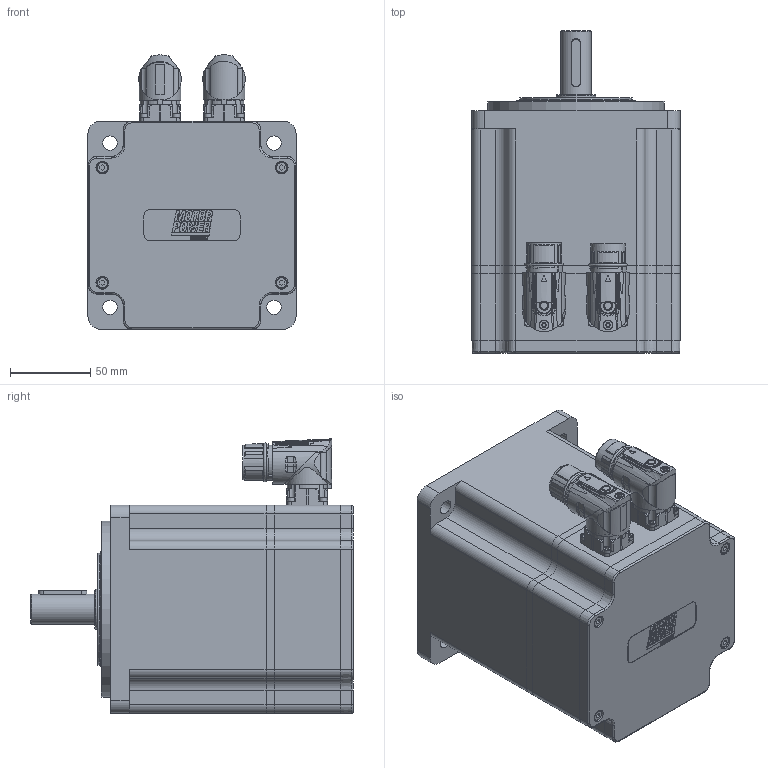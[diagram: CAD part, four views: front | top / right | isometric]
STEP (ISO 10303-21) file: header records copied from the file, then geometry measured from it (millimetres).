
FILE_DESCRIPTION(/* description */ ('Unknown'),/* implementation_level */ '2;1');
FILE_NAME(/* name */ 'TC4-130.5F.XX.X. 3.M1.0.1.C21 Q0C603',/* time_stamp */ '2026-03-05T15:24:29+01:00',/* author */ ('Unknown'),/* organization */ ('Unknown'),/* preprocessor_version */ 'ST-DEVELOPER v19.4',/* originating_system */ 'Solid Edge',/* authorisation */ 'Unknown');
FILE_SCHEMA (('AUTOMOTIVE_DESIGN {1 0 10303 214 3 1 1}'));
Products named in the file (14): Q0C603 5F M1 VUOTO; 005119002009; 007117000456; 005911000432; 007117000454; 003251022006; 003155002224; Albero TC4 130 5F M1; 005113000500; Corpo TC4-130 5F; 005911000180; 005911000185; 003103040232; 003107003290
Assembly tree (28 placements, depth 2):
  Q0C603 5F M1 VUOTO
    005119002009
    007117000456
    005911000432  x6
    007117000454
    003251022006
    003155002224
    Albero TC4 130 5F M1
    005113000500
    Corpo TC4-130 5F
    005911000180  x4
    005911000185  x8
    003103040232
    003107003290
Bounding box: 130 x 201.5 x 171.5 mm (x, y, z)
Volume: 982139.1 mm3; surface area: 321686.2 mm2
Topology: 30 solids, 30 shells, 2116 faces, 5336 edges, 3443 vertices
Faces by surface type: plane 942, cylinder 518, cone 255, bspline 231, torus 121, sphere 49
Full cylindrical faces by diameter (mm): 0.5 x1, 1 x21, 1.2 x17, 1.4 x4, 2 x4, 2.013 x16, 2.459 x2, 2.5 x8, 2.8 x4, 3 x12, 3.242 x26, 4 x11, 4.134 x8, 4.5 x20, 4.7 x8, 4.917 x2, 5.5 x6, 5.8 x1, 5.9 x2, 6 x5, 6.8 x1, 7 x10, 8 x12, 10 x1, 10.4 x4, 15.2 x1, 16 x1, 17.4 x3, 18 x1, 19 x1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
Entity records: 74366 total; most frequent: CARTESIAN_POINT 19235, ORIENTED_EDGE 8632, DIRECTION 8265, EDGE_CURVE 4316, AXIS2_PLACEMENT_3D 3172, VERTEX_POINT 3007, FACE_BOUND 2537, EDGE_LOOP 2512
